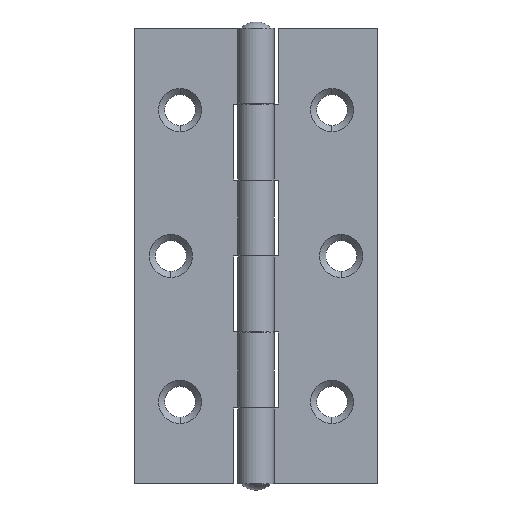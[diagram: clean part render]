
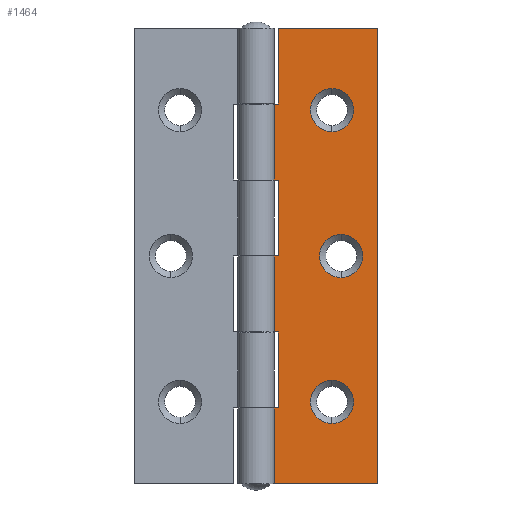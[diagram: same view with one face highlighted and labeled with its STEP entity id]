
A CAD part, front view. The second image highlights one B-rep face of the part: STEP entity #1464.
In plain terms, the highlighted planar face has unit normal (0, -1, 0) as drawn and (0, 1, 0) by its records, which use the part's own axes.
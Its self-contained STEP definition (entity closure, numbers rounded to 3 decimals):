
#287=CARTESIAN_POINT('',(-57.95,-1.5,-12.5));
#288=VERTEX_POINT('',#287);
#294=CARTESIAN_POINT('',(-65.05,-1.5,-12.5));
#295=VERTEX_POINT('',#294);
#296=CARTESIAN_POINT('',(-61.5,-1.5,-12.5));
#297=DIRECTION('',(0.0,-1.0,0.0));
#298=DIRECTION('',(-1.0,0.0,0.0));
#299=AXIS2_PLACEMENT_3D('',#296,#297,#298);
#300=CIRCLE('',#299,3.55);
#301=EDGE_CURVE('',#295,#288,#300,.T.);
#399=CARTESIAN_POINT('',(-9.95,-1.5,-12.5));
#400=VERTEX_POINT('',#399);
#406=CARTESIAN_POINT('',(-17.05,-1.5,-12.5));
#407=VERTEX_POINT('',#406);
#408=CARTESIAN_POINT('',(-13.5,-1.5,-12.5));
#409=DIRECTION('',(0.0,-1.0,0.0));
#410=DIRECTION('',(-1.0,0.0,0.0));
#411=AXIS2_PLACEMENT_3D('',#408,#409,#410);
#412=CIRCLE('',#411,3.55);
#413=EDGE_CURVE('',#407,#400,#412,.T.);
#511=CARTESIAN_POINT('',(-33.95,-1.5,-14.0));
#512=VERTEX_POINT('',#511);
#518=CARTESIAN_POINT('',(-41.05,-1.5,-14.0));
#519=VERTEX_POINT('',#518);
#520=CARTESIAN_POINT('',(-37.5,-1.5,-14.0));
#521=DIRECTION('',(0.0,-1.0,0.0));
#522=DIRECTION('',(-1.0,0.0,0.0));
#523=AXIS2_PLACEMENT_3D('',#520,#521,#522);
#524=CIRCLE('',#523,3.55);
#525=EDGE_CURVE('',#519,#512,#524,.T.);
#823=CARTESIAN_POINT('',(-37.5,-1.5,-14.0));
#824=DIRECTION('',(0.0,-1.0,0.0));
#825=DIRECTION('',(-1.0,0.0,0.0));
#826=AXIS2_PLACEMENT_3D('',#823,#824,#825);
#827=CIRCLE('',#826,3.55);
#828=EDGE_CURVE('',#512,#519,#827,.T.);
#907=CARTESIAN_POINT('',(-13.5,-1.5,-12.5));
#908=DIRECTION('',(0.0,-1.0,0.0));
#909=DIRECTION('',(-1.0,0.0,0.0));
#910=AXIS2_PLACEMENT_3D('',#907,#908,#909);
#911=CIRCLE('',#910,3.55);
#912=EDGE_CURVE('',#400,#407,#911,.T.);
#991=CARTESIAN_POINT('',(-61.5,-1.5,-12.5));
#992=DIRECTION('',(0.0,-1.0,0.0));
#993=DIRECTION('',(-1.0,0.0,0.0));
#994=AXIS2_PLACEMENT_3D('',#991,#992,#993);
#995=CIRCLE('',#994,3.55);
#996=EDGE_CURVE('',#288,#295,#995,.T.);
#1045=CARTESIAN_POINT('',(-50.0,-1.5,-3.7));
#1046=VERTEX_POINT('',#1045);
#1047=CARTESIAN_POINT('',(-37.5,-1.5,-3.7));
#1048=VERTEX_POINT('',#1047);
#1049=CARTESIAN_POINT('',(-50.0,-1.5,-3.7));
#1050=DIRECTION('',(1.0,0.0,0.0));
#1051=VECTOR('',#1050,12.5);
#1052=LINE('',#1049,#1051);
#1053=EDGE_CURVE('',#1046,#1048,#1052,.T.);
#1085=CARTESIAN_POINT('',(-37.5,-1.5,0.));
#1086=VERTEX_POINT('',#1085);
#1087=CARTESIAN_POINT('',(-37.5,-1.5,-3.7));
#1088=DIRECTION('',(0.0,0.0,1.0));
#1089=VECTOR('',#1088,3.7);
#1090=LINE('',#1087,#1089);
#1091=EDGE_CURVE('',#1048,#1086,#1090,.T.);
#1132=CARTESIAN_POINT('',(-50.0,-1.5,0.));
#1133=VERTEX_POINT('',#1132);
#1134=CARTESIAN_POINT('',(-50.0,-1.5,0.));
#1135=DIRECTION('',(0.0,0.0,-1.0));
#1136=VECTOR('',#1135,3.7);
#1137=LINE('',#1134,#1136);
#1138=EDGE_CURVE('',#1133,#1046,#1137,.T.);
#1179=CARTESIAN_POINT('',(-25.0,-1.5,-3.7));
#1180=VERTEX_POINT('',#1179);
#1181=CARTESIAN_POINT('',(-12.5,-1.5,-3.7));
#1182=VERTEX_POINT('',#1181);
#1183=CARTESIAN_POINT('',(-25.0,-1.5,-3.7));
#1184=DIRECTION('',(1.0,0.0,0.0));
#1185=VECTOR('',#1184,12.5);
#1186=LINE('',#1183,#1185);
#1187=EDGE_CURVE('',#1180,#1182,#1186,.T.);
#1219=CARTESIAN_POINT('',(-12.5,-1.5,0.));
#1220=VERTEX_POINT('',#1219);
#1221=CARTESIAN_POINT('',(-12.5,-1.5,-3.7));
#1222=DIRECTION('',(0.0,0.0,1.0));
#1223=VECTOR('',#1222,3.7);
#1224=LINE('',#1221,#1223);
#1225=EDGE_CURVE('',#1182,#1220,#1224,.T.);
#1266=CARTESIAN_POINT('',(-25.0,-1.5,0.));
#1267=VERTEX_POINT('',#1266);
#1268=CARTESIAN_POINT('',(-25.0,-1.5,0.));
#1269=DIRECTION('',(0.0,0.0,-1.0));
#1270=VECTOR('',#1269,3.7);
#1271=LINE('',#1268,#1270);
#1272=EDGE_CURVE('',#1267,#1180,#1271,.T.);
#1313=CARTESIAN_POINT('',(-62.5,-1.5,-3.7));
#1314=VERTEX_POINT('',#1313);
#1315=CARTESIAN_POINT('',(-62.5,-1.5,0.));
#1316=VERTEX_POINT('',#1315);
#1317=CARTESIAN_POINT('',(-62.5,-1.5,-3.7));
#1318=DIRECTION('',(0.0,0.0,1.0));
#1319=VECTOR('',#1318,3.7);
#1320=LINE('',#1317,#1319);
#1321=EDGE_CURVE('',#1314,#1316,#1320,.T.);
#1369=CARTESIAN_POINT('',(-75.0,-1.5,-3.7));
#1370=VERTEX_POINT('',#1369);
#1371=CARTESIAN_POINT('',(-75.0,-1.5,-3.7));
#1372=DIRECTION('',(1.0,0.0,0.0));
#1373=VECTOR('',#1372,12.5);
#1374=LINE('',#1371,#1373);
#1375=EDGE_CURVE('',#1370,#1314,#1374,.T.);
#1395=CARTESIAN_POINT('',(-78.75,-1.5,-21.0));
#1396=DIRECTION('',(0.0,1.0,0.0));
#1397=DIRECTION('',(0.0,0.0,1.0));
#1398=AXIS2_PLACEMENT_3D('',#1395,#1396,#1397);
#1399=PLANE('',#1398);
#1400=ORIENTED_EDGE('',*,*,#1138,.T.);
#1401=ORIENTED_EDGE('',*,*,#1053,.T.);
#1402=ORIENTED_EDGE('',*,*,#1091,.T.);
#1403=CARTESIAN_POINT('',(-25.0,-1.5,0.));
#1404=DIRECTION('',(-1.0,0.0,0.0));
#1405=VECTOR('',#1404,12.5);
#1406=LINE('',#1403,#1405);
#1407=EDGE_CURVE('',#1267,#1086,#1406,.T.);
#1408=ORIENTED_EDGE('',*,*,#1407,.F.);
#1409=ORIENTED_EDGE('',*,*,#1272,.T.);
#1410=ORIENTED_EDGE('',*,*,#1187,.T.);
#1411=ORIENTED_EDGE('',*,*,#1225,.T.);
#1412=CARTESIAN_POINT('',(0.,-1.5,0.));
#1413=VERTEX_POINT('',#1412);
#1414=CARTESIAN_POINT('',(0.,-1.5,0.));
#1415=DIRECTION('',(-1.0,0.0,0.0));
#1416=VECTOR('',#1415,12.5);
#1417=LINE('',#1414,#1416);
#1418=EDGE_CURVE('',#1413,#1220,#1417,.T.);
#1419=ORIENTED_EDGE('',*,*,#1418,.F.);
#1420=CARTESIAN_POINT('',(0.,-1.5,-20.0));
#1421=VERTEX_POINT('',#1420);
#1422=CARTESIAN_POINT('',(0.,-1.5,-20.0));
#1423=DIRECTION('',(0.0,0.0,1.0));
#1424=VECTOR('',#1423,20.0);
#1425=LINE('',#1422,#1424);
#1426=EDGE_CURVE('',#1421,#1413,#1425,.T.);
#1427=ORIENTED_EDGE('',*,*,#1426,.F.);
#1428=CARTESIAN_POINT('',(-75.0,-1.5,-20.0));
#1429=VERTEX_POINT('',#1428);
#1430=CARTESIAN_POINT('',(0.,-1.5,-20.0));
#1431=DIRECTION('',(-1.0,0.0,0.0));
#1432=VECTOR('',#1431,75.0);
#1433=LINE('',#1430,#1432);
#1434=EDGE_CURVE('',#1421,#1429,#1433,.T.);
#1435=ORIENTED_EDGE('',*,*,#1434,.T.);
#1436=CARTESIAN_POINT('',(-75.0,-1.5,-20.0));
#1437=DIRECTION('',(0.0,0.0,1.0));
#1438=VECTOR('',#1437,16.3);
#1439=LINE('',#1436,#1438);
#1440=EDGE_CURVE('',#1429,#1370,#1439,.T.);
#1441=ORIENTED_EDGE('',*,*,#1440,.T.);
#1442=ORIENTED_EDGE('',*,*,#1375,.T.);
#1443=ORIENTED_EDGE('',*,*,#1321,.T.);
#1444=CARTESIAN_POINT('',(-50.0,-1.5,0.));
#1445=DIRECTION('',(-1.0,0.0,0.0));
#1446=VECTOR('',#1445,12.5);
#1447=LINE('',#1444,#1446);
#1448=EDGE_CURVE('',#1133,#1316,#1447,.T.);
#1449=ORIENTED_EDGE('',*,*,#1448,.F.);
#1450=EDGE_LOOP('',(#1400,#1401,#1402,#1408,#1409,#1410,#1411,#1419,#1427,#1435,#1441,#1442,#1443,#1449));
#1451=FACE_OUTER_BOUND('',#1450,.T.);
#1452=ORIENTED_EDGE('',*,*,#525,.T.);
#1453=ORIENTED_EDGE('',*,*,#828,.T.);
#1454=EDGE_LOOP('',(#1452,#1453));
#1455=FACE_BOUND('',#1454,.T.);
#1456=ORIENTED_EDGE('',*,*,#413,.T.);
#1457=ORIENTED_EDGE('',*,*,#912,.T.);
#1458=EDGE_LOOP('',(#1456,#1457));
#1459=FACE_BOUND('',#1458,.T.);
#1460=ORIENTED_EDGE('',*,*,#301,.T.);
#1461=ORIENTED_EDGE('',*,*,#996,.T.);
#1462=EDGE_LOOP('',(#1460,#1461));
#1463=FACE_BOUND('',#1462,.T.);
#1464=ADVANCED_FACE('',(#1451,#1455,#1459,#1463),#1399,.T.);
